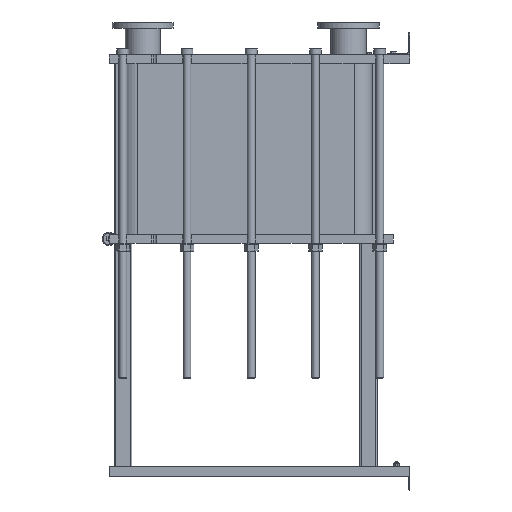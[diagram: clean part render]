
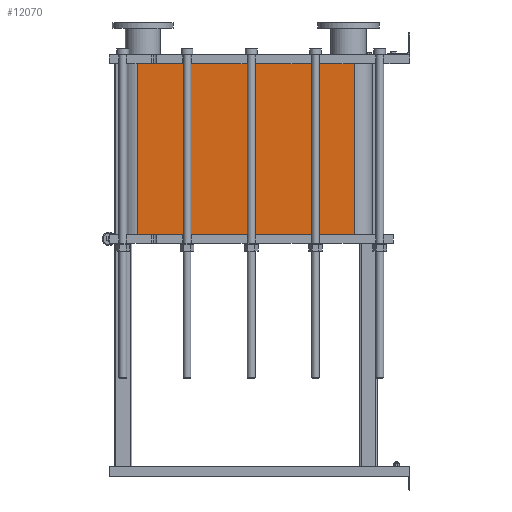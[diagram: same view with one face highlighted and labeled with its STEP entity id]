
A CAD part, left-side view. The second image highlights one B-rep face of the part: STEP entity #12070.
In plain terms, the highlighted planar face has unit normal (-1, 0, 0).
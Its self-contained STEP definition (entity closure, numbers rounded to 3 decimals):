
#1064=LINE('',#21140,#2164);
#1065=LINE('',#21144,#2165);
#1066=LINE('',#21146,#2166);
#1067=LINE('',#21147,#2167);
#2164=VECTOR('',#15790,10.);
#2165=VECTOR('',#15795,10.);
#2166=VECTOR('',#15796,10.);
#2167=VECTOR('',#15797,10.);
#3304=FACE_OUTER_BOUND('',#4091,.T.);
#4091=EDGE_LOOP('',(#9793,#9794,#9795,#9796));
#5677=VERTEX_POINT('',#21137);
#5678=VERTEX_POINT('',#21139);
#5679=VERTEX_POINT('',#21143);
#5680=VERTEX_POINT('',#21145);
#7118=EDGE_CURVE('',#5678,#5677,#1064,.T.);
#7120=EDGE_CURVE('',#5677,#5679,#1065,.T.);
#7121=EDGE_CURVE('',#5680,#5679,#1066,.T.);
#7122=EDGE_CURVE('',#5680,#5678,#1067,.T.);
#9793=ORIENTED_EDGE('',*,*,#7120,.T.);
#9794=ORIENTED_EDGE('',*,*,#7121,.F.);
#9795=ORIENTED_EDGE('',*,*,#7122,.T.);
#9796=ORIENTED_EDGE('',*,*,#7118,.T.);
#11441=PLANE('',#13191);
#12070=ADVANCED_FACE('',(#3304),#11441,.T.);
#13191=AXIS2_PLACEMENT_3D('',#21142,#15793,#15794);
#15790=DIRECTION('',(0.,0.,-1.));
#15793=DIRECTION('center_axis',(-1.,0.,0.));
#15794=DIRECTION('ref_axis',(0.,1.,0.));
#15795=DIRECTION('',(0.,-1.,0.));
#15796=DIRECTION('',(0.,0.,-1.));
#15797=DIRECTION('',(0.,1.,0.));
#21137=CARTESIAN_POINT('',(-248.152,1243.818,-783.15));
#21139=CARTESIAN_POINT('',(-248.152,1243.818,0.));
#21140=CARTESIAN_POINT('',(-248.152,1243.818,0.));
#21142=CARTESIAN_POINT('Origin',(-248.152,251.818,0.));
#21143=CARTESIAN_POINT('',(-248.152,251.818,-783.15));
#21144=CARTESIAN_POINT('',(-248.152,499.818,-783.15));
#21145=CARTESIAN_POINT('',(-248.152,251.818,0.));
#21146=CARTESIAN_POINT('',(-248.152,251.818,0.));
#21147=CARTESIAN_POINT('',(-248.152,251.818,0.));
